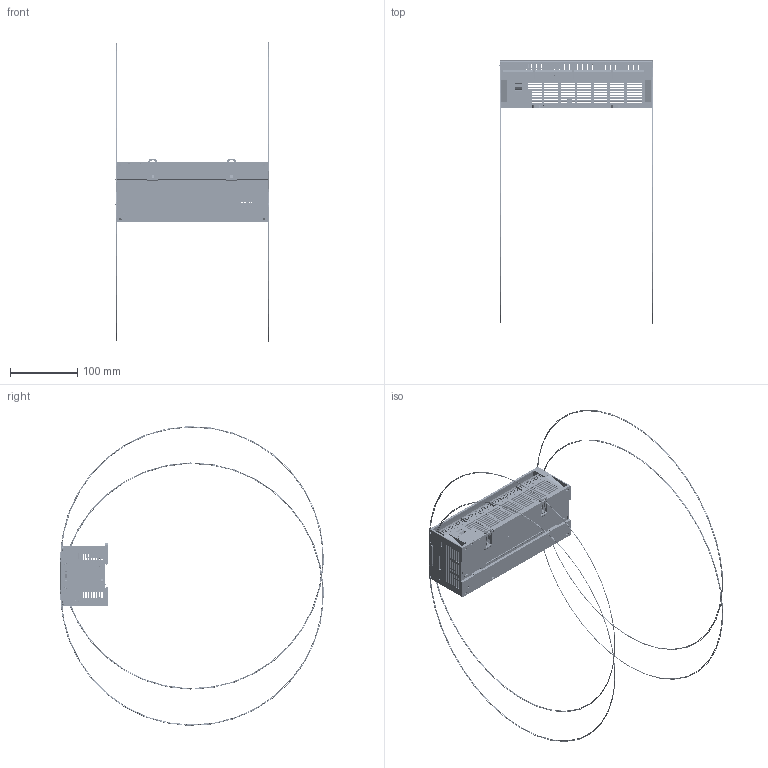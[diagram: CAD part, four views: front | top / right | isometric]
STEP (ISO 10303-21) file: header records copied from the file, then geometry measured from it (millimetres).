
FILE_DESCRIPTION((''),'2;1');
FILE_NAME('64POINTS-2','2023-05-25T20:14:22',('Cyclone_Aero15X'),(''),'CREO PARAMETRIC BY PTC INC, 2019080','CREO PARAMETRIC BY PTC INC, 2019080','');
FILE_SCHEMA(('CONFIG_CONTROL_DESIGN'));
Products named in the file (1): 64POINTS-2
Bounding box: 228.2 x 392.58 x 446.51 mm (x, y, z)
Surface area: 327700.9 mm2 (no closed solid volume)
Topology: 0 solids, 0 shells, 6292 faces, 36746 edges, 36343 vertices
Faces by surface type: plane 4219, cylinder 1601, sphere 327, torus 74, bspline 39, cone 20, extrusion 12
Entity records: 562927 total; most frequent: CARTESIAN_POINT 134140, DIRECTION 83116, TRIMMED_CURVE 65916, VECTOR 61222, LINE 61210, DEFINITIONAL_REPRESENTATION 36271, PCURVE 36271, COMPOSITE_CURVE_SEGMENT 36271
